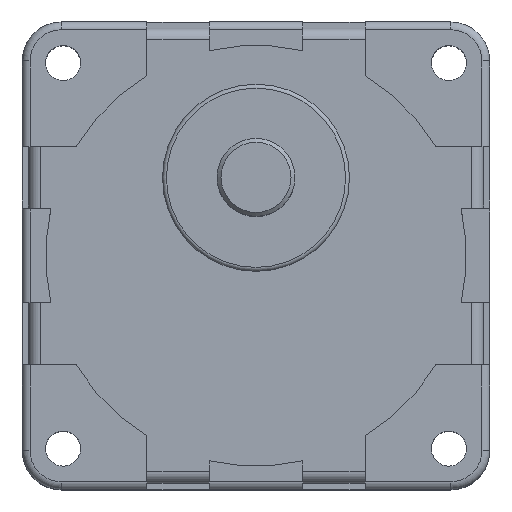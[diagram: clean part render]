
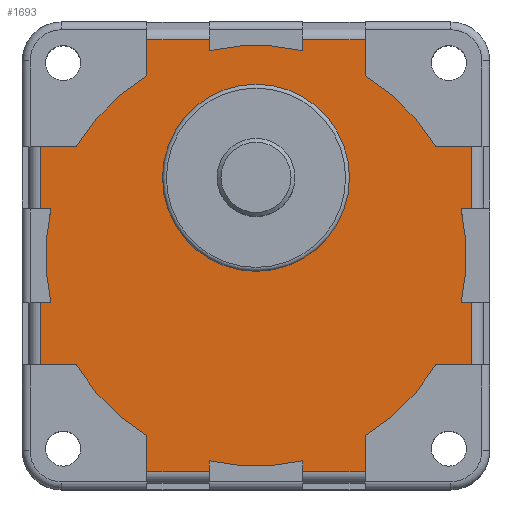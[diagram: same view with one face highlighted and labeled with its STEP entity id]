
A CAD part, top view. The second image highlights one B-rep face of the part: STEP entity #1693.
In plain terms, the highlighted planar face has unit normal (0, 0, 1).
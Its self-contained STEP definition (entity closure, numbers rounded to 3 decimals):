
#25=LINE('',#2548,#188);
#29=LINE('',#2560,#192);
#31=LINE('',#2566,#194);
#32=LINE('',#2570,#195);
#33=LINE('',#2572,#196);
#34=LINE('',#2574,#197);
#35=LINE('',#2578,#198);
#36=LINE('',#2580,#199);
#37=LINE('',#2582,#200);
#38=LINE('',#2586,#201);
#39=LINE('',#2588,#202);
#40=LINE('',#2590,#203);
#41=LINE('',#2594,#204);
#42=LINE('',#2596,#205);
#43=LINE('',#2598,#206);
#44=LINE('',#2602,#207);
#45=LINE('',#2604,#208);
#46=LINE('',#2606,#209);
#47=LINE('',#2610,#210);
#48=LINE('',#2612,#211);
#49=LINE('',#2614,#212);
#50=LINE('',#2617,#213);
#51=LINE('',#2619,#214);
#52=LINE('',#2622,#215);
#188=VECTOR('',#2020,8.);
#192=VECTOR('',#2030,8.);
#194=VECTOR('',#2036,4.613);
#195=VECTOR('',#2039,4.613);
#196=VECTOR('',#2040,8.);
#197=VECTOR('',#2041,1.375);
#198=VECTOR('',#2044,1.375);
#199=VECTOR('',#2045,8.);
#200=VECTOR('',#2046,4.613);
#201=VECTOR('',#2049,4.613);
#202=VECTOR('',#2050,8.);
#203=VECTOR('',#2051,1.375);
#204=VECTOR('',#2054,1.375);
#205=VECTOR('',#2055,8.);
#206=VECTOR('',#2056,4.613);
#207=VECTOR('',#2059,4.613);
#208=VECTOR('',#2060,8.);
#209=VECTOR('',#2061,1.375);
#210=VECTOR('',#2064,1.375);
#211=VECTOR('',#2065,8.);
#212=VECTOR('',#2066,4.613);
#213=VECTOR('',#2069,4.613);
#214=VECTOR('',#2070,1.375);
#215=VECTOR('',#2073,1.375);
#350=PLANE('',#1810);
#445=FACE_BOUND('',#577,.T.);
#469=FACE_OUTER_BOUND('',#576,.T.);
#576=EDGE_LOOP('',(#1218,#1219,#1220,#1221,#1222,#1223,#1224,#1225,#1226,
#1227,#1228,#1229,#1230,#1231,#1232,#1233,#1234,#1235,#1236,#1237,#1238,
#1239,#1240,#1241,#1242,#1243,#1244,#1245,#1246,#1247,#1248,#1249));
#577=EDGE_LOOP('',(#1250));
#695=CIRCLE('',#1811,27.);
#696=CIRCLE('',#1812,27.);
#697=CIRCLE('',#1813,27.);
#698=CIRCLE('',#1814,27.);
#699=CIRCLE('',#1815,27.);
#700=CIRCLE('',#1816,27.);
#701=CIRCLE('',#1817,27.);
#702=CIRCLE('',#1818,27.);
#703=CIRCLE('',#1819,12.);
#781=VERTEX_POINT('',#2541);
#784=VERTEX_POINT('',#2546);
#788=VERTEX_POINT('',#2557);
#789=VERTEX_POINT('',#2559);
#791=VERTEX_POINT('',#2565);
#792=VERTEX_POINT('',#2567);
#793=VERTEX_POINT('',#2569);
#794=VERTEX_POINT('',#2571);
#795=VERTEX_POINT('',#2573);
#796=VERTEX_POINT('',#2575);
#797=VERTEX_POINT('',#2577);
#798=VERTEX_POINT('',#2579);
#799=VERTEX_POINT('',#2581);
#800=VERTEX_POINT('',#2583);
#801=VERTEX_POINT('',#2585);
#802=VERTEX_POINT('',#2587);
#803=VERTEX_POINT('',#2589);
#804=VERTEX_POINT('',#2591);
#805=VERTEX_POINT('',#2593);
#806=VERTEX_POINT('',#2595);
#807=VERTEX_POINT('',#2597);
#808=VERTEX_POINT('',#2599);
#809=VERTEX_POINT('',#2601);
#810=VERTEX_POINT('',#2603);
#811=VERTEX_POINT('',#2605);
#812=VERTEX_POINT('',#2607);
#813=VERTEX_POINT('',#2609);
#814=VERTEX_POINT('',#2611);
#815=VERTEX_POINT('',#2613);
#816=VERTEX_POINT('',#2615);
#817=VERTEX_POINT('',#2618);
#818=VERTEX_POINT('',#2620);
#819=VERTEX_POINT('',#2623);
#954=EDGE_CURVE('',#784,#781,#25,.T.);
#959=EDGE_CURVE('',#788,#789,#29,.T.);
#962=EDGE_CURVE('',#784,#791,#31,.T.);
#963=EDGE_CURVE('',#792,#791,#695,.T.);
#964=EDGE_CURVE('',#793,#792,#32,.T.);
#965=EDGE_CURVE('',#794,#793,#33,.T.);
#966=EDGE_CURVE('',#795,#794,#34,.T.);
#967=EDGE_CURVE('',#796,#795,#696,.T.);
#968=EDGE_CURVE('',#796,#797,#35,.T.);
#969=EDGE_CURVE('',#798,#797,#36,.T.);
#970=EDGE_CURVE('',#798,#799,#37,.T.);
#971=EDGE_CURVE('',#800,#799,#697,.T.);
#972=EDGE_CURVE('',#801,#800,#38,.T.);
#973=EDGE_CURVE('',#802,#801,#39,.T.);
#974=EDGE_CURVE('',#803,#802,#40,.T.);
#975=EDGE_CURVE('',#804,#803,#698,.T.);
#976=EDGE_CURVE('',#804,#805,#41,.T.);
#977=EDGE_CURVE('',#806,#805,#42,.T.);
#978=EDGE_CURVE('',#806,#807,#43,.T.);
#979=EDGE_CURVE('',#808,#807,#699,.T.);
#980=EDGE_CURVE('',#809,#808,#44,.T.);
#981=EDGE_CURVE('',#810,#809,#45,.T.);
#982=EDGE_CURVE('',#811,#810,#46,.T.);
#983=EDGE_CURVE('',#812,#811,#700,.T.);
#984=EDGE_CURVE('',#812,#813,#47,.T.);
#985=EDGE_CURVE('',#814,#813,#48,.T.);
#986=EDGE_CURVE('',#814,#815,#49,.T.);
#987=EDGE_CURVE('',#816,#815,#701,.T.);
#988=EDGE_CURVE('',#789,#816,#50,.T.);
#989=EDGE_CURVE('',#817,#788,#51,.T.);
#990=EDGE_CURVE('',#818,#817,#702,.T.);
#991=EDGE_CURVE('',#818,#781,#52,.T.);
#992=EDGE_CURVE('',#819,#819,#703,.T.);
#1218=ORIENTED_EDGE('',*,*,#954,.F.);
#1219=ORIENTED_EDGE('',*,*,#962,.T.);
#1220=ORIENTED_EDGE('',*,*,#963,.F.);
#1221=ORIENTED_EDGE('',*,*,#964,.F.);
#1222=ORIENTED_EDGE('',*,*,#965,.F.);
#1223=ORIENTED_EDGE('',*,*,#966,.F.);
#1224=ORIENTED_EDGE('',*,*,#967,.F.);
#1225=ORIENTED_EDGE('',*,*,#968,.T.);
#1226=ORIENTED_EDGE('',*,*,#969,.F.);
#1227=ORIENTED_EDGE('',*,*,#970,.T.);
#1228=ORIENTED_EDGE('',*,*,#971,.F.);
#1229=ORIENTED_EDGE('',*,*,#972,.F.);
#1230=ORIENTED_EDGE('',*,*,#973,.F.);
#1231=ORIENTED_EDGE('',*,*,#974,.F.);
#1232=ORIENTED_EDGE('',*,*,#975,.F.);
#1233=ORIENTED_EDGE('',*,*,#976,.T.);
#1234=ORIENTED_EDGE('',*,*,#977,.F.);
#1235=ORIENTED_EDGE('',*,*,#978,.T.);
#1236=ORIENTED_EDGE('',*,*,#979,.F.);
#1237=ORIENTED_EDGE('',*,*,#980,.F.);
#1238=ORIENTED_EDGE('',*,*,#981,.F.);
#1239=ORIENTED_EDGE('',*,*,#982,.F.);
#1240=ORIENTED_EDGE('',*,*,#983,.F.);
#1241=ORIENTED_EDGE('',*,*,#984,.T.);
#1242=ORIENTED_EDGE('',*,*,#985,.F.);
#1243=ORIENTED_EDGE('',*,*,#986,.T.);
#1244=ORIENTED_EDGE('',*,*,#987,.F.);
#1245=ORIENTED_EDGE('',*,*,#988,.F.);
#1246=ORIENTED_EDGE('',*,*,#959,.F.);
#1247=ORIENTED_EDGE('',*,*,#989,.F.);
#1248=ORIENTED_EDGE('',*,*,#990,.F.);
#1249=ORIENTED_EDGE('',*,*,#991,.T.);
#1250=ORIENTED_EDGE('',*,*,#992,.T.);
#1693=ADVANCED_FACE('',(#469,#445),#350,.T.);
#1810=AXIS2_PLACEMENT_3D('',#2564,#2034,#2035);
#1811=AXIS2_PLACEMENT_3D('',#2568,#2037,#2038);
#1812=AXIS2_PLACEMENT_3D('',#2576,#2042,#2043);
#1813=AXIS2_PLACEMENT_3D('',#2584,#2047,#2048);
#1814=AXIS2_PLACEMENT_3D('',#2592,#2052,#2053);
#1815=AXIS2_PLACEMENT_3D('',#2600,#2057,#2058);
#1816=AXIS2_PLACEMENT_3D('',#2608,#2062,#2063);
#1817=AXIS2_PLACEMENT_3D('',#2616,#2067,#2068);
#1818=AXIS2_PLACEMENT_3D('',#2621,#2071,#2072);
#1819=AXIS2_PLACEMENT_3D('',#2624,#2074,#2075);
#2020=DIRECTION('',(0.,-1.,0.));
#2030=DIRECTION('',(0.,-1.,0.));
#2034=DIRECTION('center_axis',(0.,0.,1.));
#2035=DIRECTION('ref_axis',(1.,0.,0.));
#2036=DIRECTION('',(-1.,0.,0.));
#2037=DIRECTION('center_axis',(0.,0.,-1.));
#2038=DIRECTION('ref_axis',(-1.,0.,0.));
#2039=DIRECTION('',(0.,-1.,0.));
#2040=DIRECTION('',(1.,0.,0.));
#2041=DIRECTION('',(0.,1.,0.));
#2042=DIRECTION('center_axis',(0.,0.,-1.));
#2043=DIRECTION('ref_axis',(-1.,0.,0.));
#2044=DIRECTION('',(0.,1.,0.));
#2045=DIRECTION('',(1.,0.,0.));
#2046=DIRECTION('',(0.,-1.,0.));
#2047=DIRECTION('center_axis',(0.,0.,-1.));
#2048=DIRECTION('ref_axis',(-1.,0.,0.));
#2049=DIRECTION('',(1.,0.,0.));
#2050=DIRECTION('',(0.,1.,0.));
#2051=DIRECTION('',(-1.,0.,0.));
#2052=DIRECTION('center_axis',(0.,0.,-1.));
#2053=DIRECTION('ref_axis',(-1.,0.,0.));
#2054=DIRECTION('',(-1.,0.,0.));
#2055=DIRECTION('',(0.,1.,0.));
#2056=DIRECTION('',(1.,0.,0.));
#2057=DIRECTION('center_axis',(0.,0.,-1.));
#2058=DIRECTION('ref_axis',(-1.,0.,0.));
#2059=DIRECTION('',(0.,1.,0.));
#2060=DIRECTION('',(-1.,0.,0.));
#2061=DIRECTION('',(0.,-1.,0.));
#2062=DIRECTION('center_axis',(0.,0.,-1.));
#2063=DIRECTION('ref_axis',(-1.,0.,0.));
#2064=DIRECTION('',(0.,-1.,0.));
#2065=DIRECTION('',(-1.,0.,0.));
#2066=DIRECTION('',(0.,1.,0.));
#2067=DIRECTION('center_axis',(0.,0.,-1.));
#2068=DIRECTION('ref_axis',(-1.,0.,0.));
#2069=DIRECTION('',(-1.,0.,0.));
#2070=DIRECTION('',(1.,0.,0.));
#2071=DIRECTION('center_axis',(0.,0.,-1.));
#2072=DIRECTION('ref_axis',(-1.,0.,0.));
#2073=DIRECTION('',(1.,0.,0.));
#2074=DIRECTION('center_axis',(0.,0.,-1.));
#2075=DIRECTION('ref_axis',(1.,0.,0.));
#2541=CARTESIAN_POINT('',(27.7,6.,37.2));
#2546=CARTESIAN_POINT('',(27.7,14.,37.2));
#2548=CARTESIAN_POINT('',(27.7,7.,37.2));
#2557=CARTESIAN_POINT('',(27.7,-6.,37.2));
#2559=CARTESIAN_POINT('',(27.7,-14.,37.2));
#2560=CARTESIAN_POINT('',(27.7,-7.,37.2));
#2564=CARTESIAN_POINT('Origin',(0.,0.,37.2));
#2565=CARTESIAN_POINT('',(23.087,14.,37.2));
#2566=CARTESIAN_POINT('',(23.087,14.,37.2));
#2567=CARTESIAN_POINT('',(14.,23.087,37.2));
#2568=CARTESIAN_POINT('Origin',(0.,0.,37.2));
#2569=CARTESIAN_POINT('',(14.,27.7,37.2));
#2570=CARTESIAN_POINT('',(14.,23.087,37.2));
#2571=CARTESIAN_POINT('',(6.,27.7,37.2));
#2572=CARTESIAN_POINT('',(7.,27.7,37.2));
#2573=CARTESIAN_POINT('',(6.,26.325,37.2));
#2574=CARTESIAN_POINT('',(6.,30.,37.2));
#2575=CARTESIAN_POINT('',(-6.,26.325,37.2));
#2576=CARTESIAN_POINT('Origin',(0.,0.,37.2));
#2577=CARTESIAN_POINT('',(-6.,27.7,37.2));
#2578=CARTESIAN_POINT('',(-6.,30.,37.2));
#2579=CARTESIAN_POINT('',(-14.,27.7,37.2));
#2580=CARTESIAN_POINT('',(-7.,27.7,37.2));
#2581=CARTESIAN_POINT('',(-14.,23.087,37.2));
#2582=CARTESIAN_POINT('',(-14.,23.087,37.2));
#2583=CARTESIAN_POINT('',(-23.087,14.,37.2));
#2584=CARTESIAN_POINT('Origin',(0.,0.,37.2));
#2585=CARTESIAN_POINT('',(-27.7,14.,37.2));
#2586=CARTESIAN_POINT('',(-23.087,14.,37.2));
#2587=CARTESIAN_POINT('',(-27.7,6.,37.2));
#2588=CARTESIAN_POINT('',(-27.7,7.,37.2));
#2589=CARTESIAN_POINT('',(-26.325,6.,37.2));
#2590=CARTESIAN_POINT('',(-30.,6.,37.2));
#2591=CARTESIAN_POINT('',(-26.325,-6.,37.2));
#2592=CARTESIAN_POINT('Origin',(0.,0.,37.2));
#2593=CARTESIAN_POINT('',(-27.7,-6.,37.2));
#2594=CARTESIAN_POINT('',(-30.,-6.,37.2));
#2595=CARTESIAN_POINT('',(-27.7,-14.,37.2));
#2596=CARTESIAN_POINT('',(-27.7,-7.,37.2));
#2597=CARTESIAN_POINT('',(-23.087,-14.,37.2));
#2598=CARTESIAN_POINT('',(-23.087,-14.,37.2));
#2599=CARTESIAN_POINT('',(-14.,-23.087,37.2));
#2600=CARTESIAN_POINT('Origin',(0.,0.,37.2));
#2601=CARTESIAN_POINT('',(-14.,-27.7,37.2));
#2602=CARTESIAN_POINT('',(-14.,-23.087,37.2));
#2603=CARTESIAN_POINT('',(-6.,-27.7,37.2));
#2604=CARTESIAN_POINT('',(-7.,-27.7,37.2));
#2605=CARTESIAN_POINT('',(-6.,-26.325,37.2));
#2606=CARTESIAN_POINT('',(-6.,-30.,37.2));
#2607=CARTESIAN_POINT('',(6.,-26.325,37.2));
#2608=CARTESIAN_POINT('Origin',(0.,0.,37.2));
#2609=CARTESIAN_POINT('',(6.,-27.7,37.2));
#2610=CARTESIAN_POINT('',(6.,-30.,37.2));
#2611=CARTESIAN_POINT('',(14.,-27.7,37.2));
#2612=CARTESIAN_POINT('',(7.,-27.7,37.2));
#2613=CARTESIAN_POINT('',(14.,-23.087,37.2));
#2614=CARTESIAN_POINT('',(14.,-23.087,37.2));
#2615=CARTESIAN_POINT('',(23.087,-14.,37.2));
#2616=CARTESIAN_POINT('Origin',(0.,0.,37.2));
#2617=CARTESIAN_POINT('',(23.087,-14.,37.2));
#2618=CARTESIAN_POINT('',(26.325,-6.,37.2));
#2619=CARTESIAN_POINT('',(30.,-6.,37.2));
#2620=CARTESIAN_POINT('',(26.325,6.,37.2));
#2621=CARTESIAN_POINT('Origin',(0.,0.,37.2));
#2622=CARTESIAN_POINT('',(30.,6.,37.2));
#2623=CARTESIAN_POINT('',(-12.,10.,37.2));
#2624=CARTESIAN_POINT('Origin',(0.,10.,37.2));
